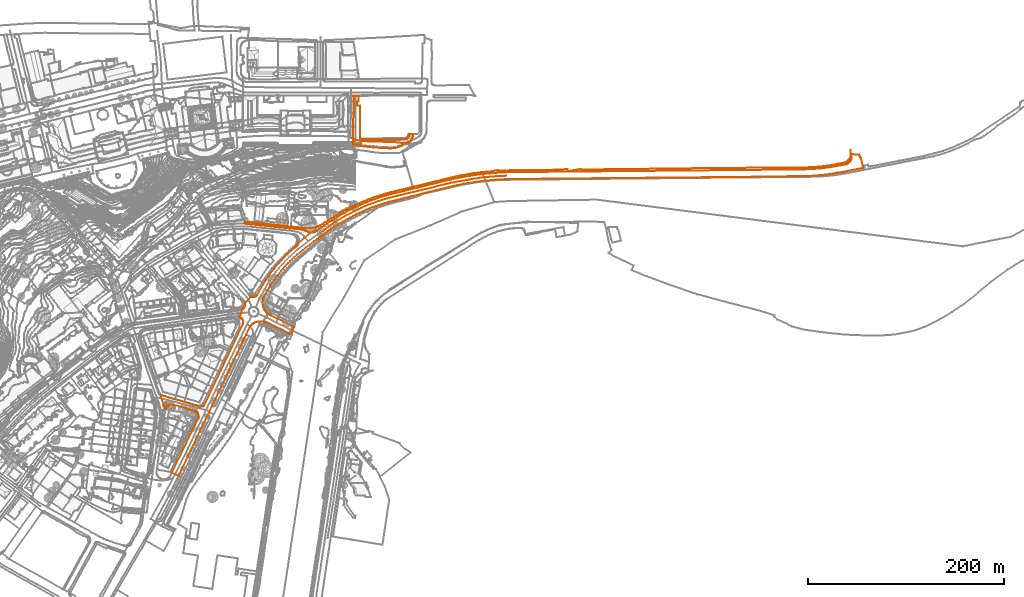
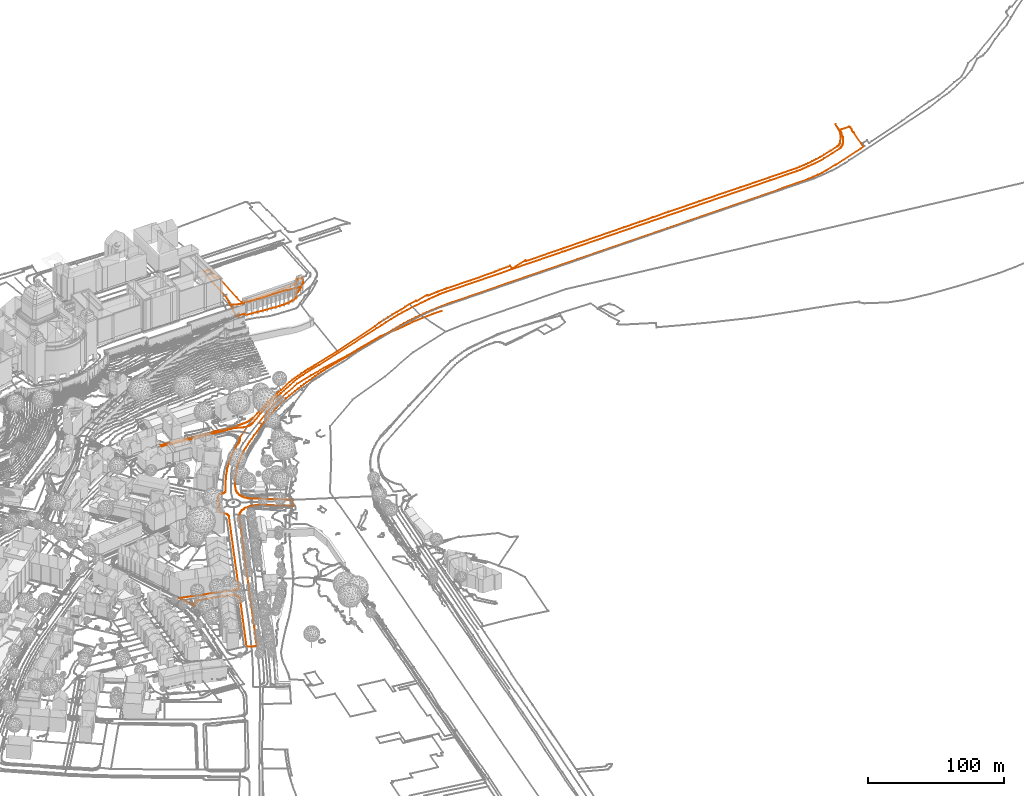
# Not in any storey, part 198 of 477: 5 civil elements.
"""IFC4 model written with IfcOpenShell, lengths in metres."""

from ifc_helpers import new_model, entity, si_unit, frame, origin_with_axes, place, context, subcontext, project, spatial, element, save


model = new_model("IFC4")

# Units and contexts
model_context = context("Model", 3, precision=1e-05, world=origin_with_axes())
body_context = subcontext(model_context, "Body", "Model", "MODEL_VIEW")
ifc_project = project(units=[si_unit("AREAUNIT", "SQUARE_METRE"), si_unit("LENGTHUNIT", "METRE")], contexts=[model_context])

# Sites
site_1_placement = place(None, origin_with_axes())
site_1 = spatial("IfcSite", under=ifc_project, at=site_1_placement, Name="Topoexport Site")
site_2_placement = place(site_1_placement, origin_with_axes())
site_2 = spatial("IfcSite", under=site_1, at=site_2_placement, Name="TPX_ROADS")

# Civil elements
civil_element_1_placement = place(site_2_placement, frame((652.7287320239, 270.2307349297, 502.334), z_axis=(0.0, 0.0, 1.0), x_axis=(1.0, 0.0, 0.0)))
element("IfcCivilElement", 1, at=civil_element_1_placement, inside=site_2, Name="Road 186", ObjectType="ROAD", context=body_context, shape_type="GeometricCurveSet", body=[
    entity("IfcGeometricCurveSet", [entity("IfcIndexedPolyCurve", entity("IfcCartesianPointList3D", [[0.0, 0.0, 0.0], [13.3630000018, 9.8389996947, 0.064], [25.5520000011, 17.0339994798, 0.069], [37.0050000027, 23.0549992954, -0.076], [49.4869999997, 28.6349991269, 0.49], [64.0240000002, 33.6279989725, 0.034], [77.8280000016, 37.2989988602, 0.002], [99.7080000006, 42.4379987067, -0.088], [133.0419999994, 50.6609984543, 0.775], [149.4880000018, 53.5979983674, -0.385], [162.557, 55.6539983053, -0.304], [172.9830000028, 56.8289982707, -0.418], [181.3529999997, 57.4159982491, -0.329], [188.9890000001, 57.7099982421, -0.403]]))]),
])
civil_element_2_placement = place(site_2_placement, frame((683.4917320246, 366.5697319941, 539.193), z_axis=(0.0, 0.0, 1.0), x_axis=(1.0, 0.0, 0.0)))
element("IfcCivilElement", 2, at=civil_element_2_placement, inside=site_2, Name="Road 194", ObjectType="ROAD", context=body_context, shape_type="GeometricCurveSet", body=[
    entity("IfcGeometricCurveSet", [entity("IfcIndexedPolyCurve", entity("IfcCartesianPointList3D", [[0.0, 0.0, 0.0], [4.0940000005, -1.8689999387, 0.0], [9.9670000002, -3.3299998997, 0.0], [26.7219999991, -3.8929998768, 0.0], [44.0549999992, -4.3579998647, 0.0], [56.6810000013, -5.775999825, -0.321]]))]),
])

# Site
site_3_placement = place(site_1_placement, origin_with_axes())
site_3 = spatial("IfcSite", under=site_1, at=site_3_placement, Name="TPX_ROADS_OUTLINES")

# Civil elements
civil_element_3_placement = place(site_3_placement, frame((685.9557320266, 359.8897160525, 531.9942875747), z_axis=(0.0, 0.0, 1.0), x_axis=(1.0, 0.0, 0.0)))
element("IfcCivilElement", 3, at=civil_element_3_placement, inside=site_3, Name="Roads Outline 50", ObjectType="ROAD", context=body_context, shape_type="GeometricCurveSet", body=[
    entity("IfcGeometricCurveSet", [entity("IfcIndexedPolyCurve", entity("IfcCartesianPointList3D", [[0.0, 0.0, 0.0], [0.0890000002, 15.2690000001, 7.6696997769], [0.2890000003, 49.442, 10.4254506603], [3.659, 49.45, 10.4313252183], [4.142, 49.45, 10.4313252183], [5.6860000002, 49.3999999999, 10.4283955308], [5.6899999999, 43.419, 9.9721661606], [3.7460000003, 43.4180000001, 9.9721215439], [3.7480000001, 39.308, 9.6187777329], [7.1060000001, 39.3100000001, 9.6190103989], [7.1070000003, 36.6429999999, 9.3774083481], [6.8319999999, 36.6429999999, 9.3774083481], [6.844, 12.4750000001, 7.4352180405], [6.9440000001, 12.4750000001, 7.4352180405], [6.9480000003, 5.2579999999, 7.2734139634], [7.4980000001, 5.2579999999, 7.2734139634], [11.4310000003, 5.2320000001, 7.2716905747], [11.4270000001, 4.7439999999, 7.239599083], [47.3960000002, 4.7709999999, 7.2412025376], [47.3960000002, 5.2609999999, 7.2736128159], [51.8680000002, 5.297, 7.2759990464], [52.4380000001, 5.338, 7.2787166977], [53.0010000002, 5.4399999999, 7.2854776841], [53.5490000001, 5.6029999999, 7.2962820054], [54.077, 5.8230000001, 7.3117002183], [54.5780000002, 6.0989999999, 7.3354863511], [55.0950000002, 6.4620000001, 7.3667702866], [55.5649999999, 6.8840000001, 7.394394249], [55.9790000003, 7.361, 7.3950056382], [56.3330000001, 7.8840000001, 7.3952736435], [56.6210000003, 8.446, 7.393798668], [56.8020000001, 8.925, 7.3990630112], [56.9360000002, 9.419, 7.4201388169], [57.02, 9.923, 7.4356003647], [57.054, 10.4339999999, 7.4356627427], [61.0440000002, 10.4609999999, 7.4356660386], [61.0300000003, 9.6580000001, 7.4303354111], [60.9440000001, 8.858, 7.3962045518], [60.787, 8.0700000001, 7.3947854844], [60.5610000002, 7.2989999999, 7.3949261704], [60.267, 6.551, 7.3744404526], [59.9070000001, 5.8329999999, 7.3125620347], [59.4850000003, 5.149, 7.2661889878], [59.003, 4.5060000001, 7.2254649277], [58.466, 3.9080000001, 7.1899513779], [57.878, 3.3599999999, 7.1886018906], [57.2430000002, 2.8670000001, 7.1958536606], [56.5670000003, 2.433, 6.5050056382], [55.8450000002, 2.0560000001, 5.7552165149], [55.0920000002, 1.746, 5.0546247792], [54.3140000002, 1.5060000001, 4.000933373], [53.517, 1.3359999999, 3.2545686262], [52.7080000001, 1.24, 2.8330920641], [51.8940000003, 1.2169999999, 2.7321133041], [51.0810000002, 1.2679999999, 2.9560227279], [51.0580000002, -0.331, 0.056040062], [49.8760000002, -0.9750000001, 0.0664170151], [48.6680000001, -1.5700000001, 0.0835668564], [47.4360000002, -2.112, 0.1039778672], [46.182, -2.602, 0.1272929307], [44.909, -3.0390000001, 0.1492976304], [43.6180000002, -3.4210000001, 0.1381416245], [42.2520000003, -3.679, 0.1123164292], [40.875, -3.8659999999, 0.0935981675], [39.4900000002, -3.9820000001, 0.0819868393], [38.1010000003, -4.027, 0.0774824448], [36.7120000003, -4.0009999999, 0.0800849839], [34.0440000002, -3.973, 0.0828877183], [31.3770000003, -3.889, 0.0912959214], [28.7120000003, -3.7509999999, 0.105109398], [16.9180000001, -2.8019999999, 0.1373637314], [6.9390000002, -1.6529999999, 0.0866925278], [6.9190000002, 0.0319999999, 0.2459170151], [2.5589999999, 0.0219999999, 0.2382802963], [0.4140000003, 0.004, 0.0634251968], [0.0, 0.0, 0.0]]))]),
])
civil_element_4_placement = place(site_3_placement, frame((575.3137320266, 279.0887160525, 502.7390479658), z_axis=(0.0, 0.0, 1.0), x_axis=(1.0, 0.0, 0.0)))
element("IfcCivilElement", 4, at=civil_element_4_placement, inside=site_3, Name="Roads Outline 58", ObjectType="ROAD", context=body_context, shape_type="GeometricCurveSet", body=[
    entity("IfcGeometricCurveSet", [entity("IfcIndexedPolyCurve", entity("IfcCartesianPointList3D", [[0.0, 0.0, 0.0], [0.023, 0.594, -0.0140480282], [0.1830000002, 2.064, 0.0380007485], [22.773, -0.297, -0.0268179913], [44.0260000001, -2.5190000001, -0.1798055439], [47.074, -2.8370000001, -0.2072955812], [63.0970000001, -4.5120000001, -0.1920969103], [64.338, -4.602, -0.1647163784], [65.5830000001, -4.6240000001, -0.1415279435], [66.827, -4.578, -0.0665604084], [68.0660000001, -4.463, -0.0619629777], [69.298, -4.281, -0.101557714], [70.517, -4.031, -0.1192800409], [71.7250000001, -3.7239999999, -0.0913754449], [72.915, -3.351, -0.0910114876], [74.0819999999, -2.9129999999, -0.1205362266], [75.2239999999, -2.412, -0.1277057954], [76.3360000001, -1.8489999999, -0.0987951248], [77.4160000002, -1.226, -0.0988630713], [82.196, 1.51, -0.1127746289], [85.1120000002, 3.476, -0.1272505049], [88.0610000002, 5.3929999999, -0.1297072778], [91.0410000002, 7.26, -0.1068120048], [94.0520000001, 9.077, -0.0926212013], [97.094, 10.844, -0.0606127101], [100.1640000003, 12.5589999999, -0.0386481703], [103.2630000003, 14.2220000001, -0.0256914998], [106.3670000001, 15.8629999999, -0.0246709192], [109.4990000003, 17.4509999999, -0.0241921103], [112.6570000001, 18.987, 0.0202368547], [115.8390000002, 20.47, 0.2884547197], [119.0470000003, 21.899, 0.8569992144], [122.2779999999, 23.274, 1.2869851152], [125.531, 24.595, 1.306228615], [128.8190000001, 25.838, 1.3645499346], [132.1270000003, 27.027, 1.390284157], [135.4539999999, 28.159, 1.487663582], [138.801, 29.2349999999, 1.556854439], [142.1640000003, 30.2549999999, 1.5883577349], [145.5449999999, 31.219, 1.6512673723], [148.9410000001, 32.125, 1.7039483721], [171.503, 37.6439999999, 3.1170710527], [208.5060000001, 46.7050000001, 7.1352472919], [212.9879999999, 47.71, 7.9794635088], [217.4850000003, 48.649, 8.5499245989], [221.3820000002, 49.4069999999, 8.951478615], [225.2880000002, 50.115, 9.4588840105], [229.3280000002, 50.784, 9.9802904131], [233.375, 51.4010000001, 10.463074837], [237.4310000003, 51.966, 11.1532098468], [241.4930000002, 52.48, 11.8874104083], [247.2800000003, 53.135, 12.318484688], [247.3500000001, 52.825, 12.1585084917], [257.4810000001, 54.5449999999, 13.2654735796], [257.523, 54.1769999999, 12.9917421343], [257.551, 53.9350000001, 12.8117339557], [259.4210000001, 54.0449999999, 12.893555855], [265.29, 54.297, 13.0810023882], [266.7940000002, 54.362, 13.1293516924], [272.3560000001, 54.4979999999, 13.2305133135], [273.716, 54.531, 13.2550598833], [274.423, 54.537, 13.2595228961], [294.1490000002, 54.692, 13.3563945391], [301.5900000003, 54.75, 13.389823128], [315.6440000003, 54.9639999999, 13.5131630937], [315.6370000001, 55.094, 13.5880892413], [319.6899999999, 55.2449999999, 13.6751188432], [328.818, 55.584, 13.8704786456], [329.1580000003, 53.544, 12.5295500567], [329.2060000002, 53.219, 12.3618330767], [329.5249999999, 53.2749999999, 12.3907320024], [329.4709999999, 53.5999999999, 12.56254908], [342.0240000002, 55.8419999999, 14.0160130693], [342.0930000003, 55.1909999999, 13.6439956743], [372.034, 55.51, 13.8278529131], [374.2630000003, 55.5330000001, 13.8411090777], [413.125, 55.9609999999, 14.0831394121], [425.9180000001, 56.1099999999, 14.1671883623], [439.6899999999, 56.26, 14.2518013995], [450.4930000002, 56.389, 14.3245686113], [451.2490000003, 56.3999999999, 14.3307735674], [463.7290000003, 56.5829999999, 14.4340344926], [464.165, 56.5889999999, 14.4376171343], [490.628, 56.7689999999, 14.5450963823], [494.4780000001, 56.8149999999, 14.5725633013], [502.4190000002, 56.909, 14.6286913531], [512.5300000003, 56.9790000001, 14.6704888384], [525.611, 57.0700000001, 14.7248255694], [537.4220000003, 57.1499999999, 14.772594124], [550.2340000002, 57.24, 14.8263337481], [562.3050000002, 57.3100000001, 14.8681312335], [568.7949999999, 57.3599999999, 14.89798658], [572.5930000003, 57.425, 14.9367985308], [576.389, 57.5689999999, 15.0227819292], [580.1810000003, 57.7930000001, 15.1932888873], [581.875, 57.919, 15.2904728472], [583.5670000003, 58.061, 15.3999976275], [587.2510000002, 58.4239999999, 15.6799799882], [590.9270000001, 58.862, 15.9835618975], [594.5930000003, 59.3740000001, 16.3158431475], [598.2480000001, 59.9609999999, 16.7408192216], [604.5049999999, 61.044, 17.5720565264], [610.7400000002, 62.25, 18.4461749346], [611.446, 62.4339999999, 18.5727310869], [612.1320000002, 62.6799999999, 18.6905505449], [612.7940000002, 62.986, 18.7405855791], [613.426, 63.3499999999, 18.8001043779], [614.023, 63.7689999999, 19.4143107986], [614.5810000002, 64.2390000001, 20.8626933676], [615.0950000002, 64.757, 21.9714867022], [615.5600000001, 65.318, 22.1374857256], [615.9739999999, 65.9180000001, 22.2188021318], [616.3340000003, 66.5530000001, 22.2248482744], [616.6350000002, 67.2169999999, 22.3294978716], [616.8760000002, 67.906, 23.1805670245], [617.0550000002, 68.6129999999, 24.8717613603], [617.1699999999, 69.3329999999, 25.816585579], [617.2200000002, 70.061, 25.9659049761], [617.2060000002, 70.79, 25.851041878], [616.8400000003, 75.2560000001, 28.3321324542], [617.693, 70.7760000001, 25.8457833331], [618.1140000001, 68.773, 25.081722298], [618.1440000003, 68.0109999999, 23.4369339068], [618.0989999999, 67.25, 22.3349220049], [617.9790000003, 66.497, 22.2243150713], [617.7860000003, 65.7589999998, 22.2172882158], [617.5210000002, 65.044, 22.0564095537], [617.1880000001, 64.358, 21.2294115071], [616.7880000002, 63.7079999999, 19.2263292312], [616.327, 63.101, 18.7593895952], [615.8300000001, 62.5649999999, 18.6628335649], [615.2850000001, 62.078, 18.3278724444], [614.6970000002, 61.6439999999, 18.029364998], [614.071, 61.267, 17.743934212], [613.412, 60.9509999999, 17.5003765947], [612.7260000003, 60.699, 17.3061471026], [612.0190000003, 60.5119999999, 17.1624095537], [605.352, 59.2069999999, 16.2074623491], [597.3300000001, 57.76, 15.1678359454], [588.389, 56.5859999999, 14.4358258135], [585.7510000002, 56.3, 14.274364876], [583.1090000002, 56.0530000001, 14.1350354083], [580.463, 55.845, 14.0177053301], [577.8859999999, 55.6780000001, 13.9235028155], [575.3060000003, 55.547, 13.8491780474], [572.7250000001, 55.453, 13.7950006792], [564.1810000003, 55.317, 13.7166164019], [550.0300000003, 55.142, 13.6157542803], [374.415, 53.4979999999, 12.5058116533], [372.1510000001, 53.477, 12.4949745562], [272.0070000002, 52.541, 11.9745431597], [269.443, 52.4790000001, 11.8859820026], [266.8790000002, 52.3969999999, 11.7688527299], [265.3740000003, 52.338, 11.6845767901], [261.5789999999, 52.1580000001, 11.4274637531], [257.7860000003, 51.932, 11.1046440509], [253.997, 51.6599999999, 10.7161176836], [250.2110000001, 51.3419999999, 10.4169090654], [246.3080000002, 50.9639999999, 10.1211351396], [242.409, 50.5379999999, 9.7879973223], [237.6880000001, 49.9739999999, 9.3491795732], [232.977, 49.335, 8.913336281], [229.551, 48.7989999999, 8.6293877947], [226.1310000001, 48.2249999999, 8.2954133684], [222.7170000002, 47.6129999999, 7.9199545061], [218.1060000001, 46.726, 7.1535819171], [213.5100000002, 45.7689999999, 6.6311838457], [208.9280000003, 44.7439999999, 6.109972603], [151.7320000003, 30.7689999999, 1.6132409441], [148.4670000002, 29.9439999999, 1.5797209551], [145.216, 29.0649999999, 1.5505769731], [141.98, 28.1310000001, 1.4846796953], [138.7609999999, 27.1429999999, 1.3977854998], [135.2850000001, 26.013, 1.3638342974], [131.8310000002, 24.817, 1.3195819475], [128.4010000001, 23.5549999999, 1.3691464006], [124.9950000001, 22.2279999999, 0.9666591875], [121.3740000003, 20.7109999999, 0.3753800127], [117.7800000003, 19.1310000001, 0.0251982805], [114.2150000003, 17.4879999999, -0.0992118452], [110.679, 15.7830000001, -0.1509549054], [107.1640000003, 14.0109999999, -0.1605287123], [103.6800000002, 12.1780000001, -0.168336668], [100.2290000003, 10.2849999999, -0.1843143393], [96.8119999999, 8.331, -0.2031708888], [94.2209999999, 6.7919999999, -0.2053692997], [91.6510000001, 5.219, -0.2345451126], [89.102, 3.6129999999, -0.2163769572], [86.6520000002, 2.024, -0.2502217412], [84.2209999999, 0.406, -0.2518458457], [81.5010000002, -1.4640000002, -0.2493056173], [78.8089999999, -3.375, -0.2500061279], [76.3859999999, -5.0919999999, -0.2502842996], [73.9720000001, -6.8200000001, -0.271843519], [73.344, -7.21, -0.2652878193], [72.6980000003, -7.5690000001, -0.2628349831], [72.0350000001, -7.8959999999, -0.2767461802], [71.2420000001, -8.237, -0.2722622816], [70.4310000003, -8.5330000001, -0.2845146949], [69.6040000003, -8.7830000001, -0.2947456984], [68.9939999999, -8.8900000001, -0.3006555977], [68.378, -8.9550000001, -0.3036094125], [67.7590000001, -8.9780000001, -0.3067985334], [66.9560000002, -8.9310000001, -0.3115055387], [66.1610000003, -8.804, -0.3147814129], [65.3829999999, -8.6000000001, -0.3105563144], [64.6290000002, -8.3200000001, -0.3057634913], [62.7230000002, -7.4040000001, -0.3226755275], [62.236, -7.196, -0.3164778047], [61.7430000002, -7.0009999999, -0.320302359], [61.361, -6.8600000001, -0.3299399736], [60.977, -6.727, -0.3408689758], [60.4870000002, -6.5730000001, -0.3266627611], [59.9950000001, -6.4240000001, -0.3020969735], [59.321, -6.21, -0.2931997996], [58.6350000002, -6.0390000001, -0.2884538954], [57.9470000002, -5.9129999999, -0.298608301], [57.253, -5.831, -0.294097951], [54.932, -5.6270000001, -0.3001115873], [52.6120000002, -5.4110000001, -0.2933143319], [49.7880000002, -5.132, -0.299116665], [46.966, -4.835, -0.2836204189], [19.7720000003, -2.0449999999, -0.1241622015], [0.0, 0.0, 0.0]]))]),
])
civil_element_5_placement = place(site_3_placement, frame((489.6837320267, 104.7347160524, 502.037969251), z_axis=(0.0, 0.0, 1.0), x_axis=(1.0, 0.0, 0.0)))
element("IfcCivilElement", 5, at=civil_element_5_placement, inside=site_3, Name="Roads Outline 129", ObjectType="ROAD", context=body_context, shape_type="GeometricCurveSet", body=[
    entity("IfcGeometricCurveSet", [entity("IfcIndexedPolyCurve", entity("IfcCartesianPointList3D", [[0.0, 0.0, 0.0], [0.4920000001, -0.233, 0.0318267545], [1.0060000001, -0.412, 0.0950170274], [39.8199999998, -11.6299999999, 0.2764621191], [40.324, -11.797, 0.2865341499], [40.8450000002, -11.895, 0.2985066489], [41.375, -11.923, 0.313501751], [41.9029999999, -11.8810000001, 0.3333480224], [42.4219999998, -11.7690000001, 0.3526205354], [42.8859999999, -11.6029999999, 0.372504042], [43.327, -11.3810000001, 0.3893167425], [43.736, -11.1059999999, 0.4033817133], [44.1090000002, -10.7830000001, 0.400764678], [44.4380000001, -10.416, 0.3657466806], [44.7200000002, -10.0109999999, 0.329784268], [44.9500000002, -9.575, 0.3438664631], [83.7009999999, 71.5360000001, 0.3001369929], [83.929, 72.0379999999, 0.3125179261], [84.1060000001, 72.5590000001, 0.3279154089], [84.2310000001, 73.0959999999, 0.3375027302], [84.3029999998, 73.642, 0.3435276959], [84.3190000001, 74.247, 0.3418342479], [84.27, 74.851, 0.3344868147], [84.156, 75.446, 0.3401234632], [83.9780000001, 76.0249999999, 0.3378386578], [83.7179999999, 76.608, 0.3384688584], [83.3900000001, 77.156, 0.3458584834], [82.9989999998, 77.6599999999, 0.3509445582], [82.5520000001, 78.115, 0.3585128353], [82.0529999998, 78.514, 0.3793027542], [81.4210000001, 78.912, 0.3947122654], [80.7510000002, 79.2409999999, 0.3958385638], [81.3960000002, 81.422, 0.3990033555], [82.986, 86.8019999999, 0.3606123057], [82.9950000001, 86.831, 0.3602272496], [83.6030000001, 87.209, 0.369613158], [84.165, 87.6499999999, 0.3805091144], [84.676, 88.1510000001, 0.3936143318], [85.1290000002, 88.7050000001, 0.4026164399], [85.5189999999, 89.3049999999, 0.4034149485], [85.8199999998, 89.8959999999, 0.3853303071], [86.0589999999, 90.5149999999, 0.3837114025], [86.2349999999, 91.1540000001, 0.385634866], [86.3450000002, 91.808, 0.3934733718], [86.3870000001, 92.47, 0.3949902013], [86.3629999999, 93.1329999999, 0.3962791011], [86.2710000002, 93.79, 0.3904640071], [86.3590000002, 93.8899999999, 0.3864006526], [92.017, 100.321, 0.5224619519], [92.5070000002, 100.0649999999, 0.5266412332], [93.0240000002, 99.8689999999, 0.523044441], [93.5610000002, 99.737, 0.525689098], [94.1090000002, 99.6699999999, 0.5273917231], [94.662, 99.6699999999, 0.52829527], [95.2179999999, 99.7379999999, 0.5303505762], [95.7609999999, 99.8740000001, 0.5272590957], [96.284, 100.075, 0.5236011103], [96.7790000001, 100.338, 0.5236526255], [97.2370000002, 100.659, 0.5298865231], [97.6529999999, 101.034, 0.533267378], [98.0210000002, 101.4569999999, 0.5120987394], [98.3339999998, 101.9210000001, 0.4776904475], [104.9720000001, 113.2220000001, 0.4329129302], [106.5989999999, 115.855, 0.4393658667], [108.2820000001, 118.453, 0.4354937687], [110.02, 121.014, 0.3888726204], [111.8139999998, 123.537, 0.3735200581], [113.6609999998, 126.0209999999, 0.3625646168], [115.5210000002, 128.4140000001, 0.331611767], [117.4309999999, 130.767, 0.3335581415], [119.3900000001, 133.0789999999, 0.3097474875], [121.398, 135.3489999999, 0.3087374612], [123.4530000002, 137.577, 0.2541953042], [125.5550000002, 139.76, 0.2779658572], [127.659, 141.8770000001, 0.2416971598], [129.8119999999, 143.9450000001, 0.2766928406], [132.1209999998, 146.0530000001, 0.2389161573], [134.4819999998, 148.1030000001, 0.2319543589], [136.8930000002, 150.094, 0.233252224], [137.483, 150.5600000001, 0.2067087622], [138.0750000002, 151.0220000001, 0.2246084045], [138.375, 151.3030000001, 0.2387899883], [138.6660000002, 151.595, 0.2399036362], [139.145, 152.0419999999, 0.2449269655], [139.5839999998, 152.5279999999, 0.2313018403], [139.98, 153.0490000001, 0.2313866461], [140.3849999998, 153.703, 0.2462976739], [140.7220000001, 154.3940000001, 0.2484129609], [140.8969999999, 154.926, 0.2506428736], [141.0430000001, 155.4669999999, 0.2681042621], [153.389, 165.3759999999, 0.3942801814], [154.0079999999, 165.399, 0.3974693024], [154.6239999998, 165.4639999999, 0.4004231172], [155.2340000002, 165.571, 0.4063330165], [156.0610000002, 165.821, 0.4165640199], [156.872, 166.1170000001, 0.4288164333], [157.665, 166.4580000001, 0.4243325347], [158.3280000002, 166.7849999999, 0.4382437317], [158.9739999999, 167.1440000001, 0.4357908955], [159.602, 167.534, 0.4292351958], [162.0159999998, 169.2620000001, 0.4507944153], [164.4389999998, 170.9790000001, 0.4510725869], [167.1310000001, 172.8899999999, 0.4517730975], [169.8509999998, 174.76, 0.4492328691], [172.2820000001, 176.378, 0.4508569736], [174.7319999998, 177.9669999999, 0.4847017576], [177.281, 179.5730000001, 0.4665336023], [179.8509999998, 181.1459999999, 0.4957094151], [182.4419999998, 182.6850000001, 0.497907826], [185.8590000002, 184.639, 0.5167643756], [189.3100000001, 186.5320000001, 0.5327420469], [192.7940000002, 188.365, 0.5405500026], [196.3089999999, 190.1370000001, 0.5501238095], [199.8450000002, 191.8419999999, 0.6018668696], [203.4100000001, 193.4850000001, 0.7262769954], [207.0040000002, 195.0649999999, 1.0764587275], [210.625, 196.5819999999, 1.6677379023], [214.031, 197.909, 2.0702251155], [217.4610000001, 199.1710000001, 2.0206606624], [220.915, 200.3670000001, 2.0649130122], [224.3909999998, 201.497, 2.0988642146], [227.6099999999, 202.4850000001, 2.1857584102], [230.8459999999, 203.419, 2.251655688], [234.0970000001, 204.298, 2.2807996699], [237.3620000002, 205.1229999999, 2.3143196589], [294.5580000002, 219.098, 6.8110513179], [299.1400000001, 220.1229999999, 7.3322625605], [303.736, 221.0800000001, 7.8546606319], [308.3470000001, 221.9669999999, 8.6210332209], [311.7609999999, 222.5789999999, 8.9964920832], [315.1809999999, 223.1529999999, 9.3304665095], [318.6069999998, 223.689, 9.6144149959], [323.318, 224.328, 10.0502582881], [328.0389999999, 224.892, 10.4890760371], [331.9380000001, 225.318, 10.8222138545], [335.841, 225.696, 11.1179877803], [339.6269999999, 226.014, 11.4171963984], [343.4160000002, 226.2860000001, 11.8057227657], [347.2089999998, 226.5120000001, 12.1285424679], [351.0040000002, 226.692, 12.3856555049], [352.5090000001, 226.7509999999, 12.4699314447], [355.0729999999, 226.8330000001, 12.5870607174], [357.6370000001, 226.895, 12.6756218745], [457.781, 227.831, 13.196053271], [460.0449999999, 227.852, 13.2068903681], [635.6600000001, 229.496, 14.3168329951], [649.8110000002, 229.6710000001, 14.4176951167], [658.355, 229.807, 14.4960793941], [660.9360000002, 229.9010000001, 14.5502567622], [663.5159999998, 230.0320000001, 14.6245815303], [666.0929999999, 230.199, 14.7187840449], [668.7390000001, 230.4070000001, 14.8361141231], [671.3810000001, 230.6540000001, 14.9754435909], [674.0189999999, 230.9399999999, 15.1369045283], [682.96, 232.1140000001, 15.8689146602], [690.9819999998, 233.561, 16.908541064], [697.6490000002, 234.8659999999, 17.8634882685], [698.3560000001, 235.0530000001, 18.0072258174], [699.0419999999, 235.3049999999, 18.2014553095], [699.7009999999, 235.621, 18.4450129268], [700.327, 235.9979999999, 18.7304437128], [700.915, 236.432, 19.0289511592], [701.46, 236.919, 19.3639122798], [701.9569999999, 237.4550000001, 19.4604683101], [702.4180000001, 238.0619999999, 19.9274079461], [702.818, 238.7120000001, 21.9304902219], [703.1510000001, 239.398, 22.7574882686], [703.4160000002, 240.1129999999, 22.9183669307], [703.6090000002, 240.851, 22.9253937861], [703.7289999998, 241.6040000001, 23.0360007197], [703.7740000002, 242.365, 24.1380126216], [703.7439999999, 243.1270000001, 25.7828010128], [703.3229999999, 245.1300000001, 26.5468620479], [711.6090000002, 244.8970000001, 26.4884401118], [711.8220000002, 244.156, 26.762923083], [712.0180000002, 243.527, 26.3077033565], [712.2749999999, 242.9199999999, 25.4930947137], [712.5890000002, 242.3419999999, 24.0818560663], [712.9580000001, 241.7960000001, 23.0675593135], [713.3790000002, 241.2890000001, 22.9842249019], [715.6120000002, 231.267, 15.3321584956], [712.8760000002, 230.73, 15.0183141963], [689.1940000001, 226.044, 11.4600485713], [689.1510000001, 226.26, 11.7685842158], [680.7719999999, 224.8500000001, 10.4563981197], [676.8110000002, 224.3459999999, 10.0642631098], [672.841, 223.9140000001, 9.7336097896], [668.852, 223.551, 9.5413088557], [664.858, 223.2590000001, 9.3866205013], [660.8590000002, 223.0390000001, 9.2700744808], [638.8670000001, 222.726, 9.0866758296], [638.8280000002, 222.5349999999, 8.9694983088], [543.3280000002, 221.5800000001, 8.2911993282], [489.202, 221.108, 7.8791067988], [466.5619999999, 220.8999999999, 7.7113725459], [359.4100000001, 219.852, 7.1979227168], [354.98, 219.7679999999, 7.1548229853], [350.5529999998, 219.6170000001, 7.0773460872], [346.128, 219.3999999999, 6.9660051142], [341.7059999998, 219.1170000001, 6.8208000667], [337.29, 218.767, 6.6491397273], [334.2450000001, 218.487, 6.5185989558], [331.2030000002, 218.176, 6.373605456], [327.3790000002, 217.7660000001, 6.1865809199], [323.5619999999, 217.3060000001, 5.9832813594], [319.75, 216.7949999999, 5.7454539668], [316.264, 216.257, 5.4619400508], [312.784, 215.676, 5.1851398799], [309.3119999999, 215.0519999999, 4.9268029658], [305.7409999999, 214.3640000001, 4.5904222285], [302.179, 213.6310000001, 4.2715743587], [298.6260000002, 212.8530000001, 4.0173401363], [295.0839999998, 212.0290000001, 3.8253718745], [237.7579999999, 197.9639999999, 2.0761149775], [234.6889999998, 197.182, 1.8576583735], [231.6340000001, 196.348, 1.5897426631], [228.594, 195.4610000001, 1.2473884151], [225.5690000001, 194.523, 0.9055661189], [222.5449999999, 193.5260000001, 0.7276896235], [219.5389999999, 192.477, 0.6606183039], [216.5520000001, 191.375, 0.5836959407], [213.585, 190.2209999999, 0.5472164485], [210.102, 188.791, 0.5033242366], [206.6490000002, 187.2890000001, 0.5211474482], [203.2280000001, 185.716, 0.4538618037], [199.8399999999, 184.0730000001, 0.486218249], [196.3760000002, 182.3319999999, 0.5347172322], [192.9449999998, 180.5260000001, 0.5152099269], [189.5490000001, 178.6570000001, 0.5213662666], [186.1869999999, 176.726, 0.4668910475], [183.4449999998, 175.112, 0.4904026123], [180.73, 173.4550000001, 0.4713032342], [177.29, 171.25, 0.481751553], [173.8820000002, 168.9939999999, 0.4513197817], [170.5320000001, 166.703, 0.4030222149], [167.2170000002, 164.3629999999, 0.3722437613], [166.0759999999, 163.558, 0.3353686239], [164.9410000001, 162.7439999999, 0.3350132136], [164.0150000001, 162.0689999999, 0.3613916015], [163.094, 161.388, 0.3310757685], [162.6000000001, 161.027, 0.3464517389], [159.557, 158.7890000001, 0.359516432], [156.5279999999, 156.5320000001, 0.3168201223], [152.2030000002, 153.2550000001, 0.336954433], [147.9100000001, 149.9380000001, 0.2182045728], [145.2319999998, 147.818, 0.2088180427], [142.5789999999, 145.6669999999, 0.2329256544], [139.1710000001, 142.8200000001, 0.3634406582], [135.8089999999, 139.9199999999, 0.3338330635], [133.8909999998, 138.148, 0.3114798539], [132.0090000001, 136.3370000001, 0.3573746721], [130.165, 134.4879999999, 0.3546616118], [128.3599999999, 132.601, 0.3603923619], [126.5019999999, 130.554, 0.3895127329], [124.682, 128.4739999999, 0.3754822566], [122.8999999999, 126.361, 0.4064679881], [121.1579999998, 124.2150000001, 0.4112157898], [119.284, 121.8149999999, 0.5018478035], [117.46, 119.378, 0.4641318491], [115.6850000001, 116.9040000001, 0.5768830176], [113.96, 114.395, 0.5177460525], [112.287, 111.851, 0.5648822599], [111.719, 110.9450000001, 0.4922565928], [111.1579999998, 110.034, 0.5679844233], [109.7089999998, 107.6030000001, 0.5460242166], [108.3130000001, 105.1410000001, 0.5053488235], [106.9700000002, 102.649, 0.5635916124], [105.682, 100.129, 0.5779423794], [105.2949999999, 99.253, 0.5582761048], [104.9649999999, 98.3540000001, 0.5693903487], [104.6940000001, 97.4350000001, 0.6139149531], [104.483, 96.5009999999, 0.6518028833], [104.3330000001, 95.5549999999, 0.6617279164], [104.2439999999, 94.601, 0.6664302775], [104.2170000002, 93.6470000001, 0.7002412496], [104.2519999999, 92.6939999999, 0.7174642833], [104.3480000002, 91.7450000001, 0.7463504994], [104.5049999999, 90.804, 0.7981586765], [104.7230000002, 89.875, 0.7810090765], [105.0, 88.9620000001, 0.7712170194], [105.398, 87.9839999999, 0.8306107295], [105.8679999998, 87.0379999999, 0.8476780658], [106.4070000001, 86.1300000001, 0.8588735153], [107.0120000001, 85.2649999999, 0.8711099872], [107.6809999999, 84.4469999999, 0.8858651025], [108.4079999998, 83.6810000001, 0.9250246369], [109.1899999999, 82.9709999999, 0.9568424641], [110.023, 82.3219999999, 0.9927378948], [110.9020000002, 81.737, 0.9913033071], [111.8220000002, 81.2180000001, 1.0143836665], [112.7779999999, 80.77, 1.0540065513], [134.7310000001, 70.01, -0.9569198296], [136.2009999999, 69.2890000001, -1.0759925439], [135.73, 68.3230000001, -1.0826023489], [132.648, 62.004, -1.0242031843], [132.2050000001, 62.2209999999, -1.017158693], [109.6290000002, 73.3219999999, 1.1629903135], [108.6340000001, 73.764, 1.1262017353], [107.6120000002, 74.138, 1.0789037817], [106.5660000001, 74.4399999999, 1.0637142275], [105.6170000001, 74.6340000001, 1.0193603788], [104.6609999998, 74.7830000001, 1.0490911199], [103.6979999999, 74.8870000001, 1.0508860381], [102.7379999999, 74.977, 1.0368086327], [101.7740000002, 75.0020000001, 0.9779914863], [100.8110000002, 74.9610000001, 0.9364992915], [99.8530000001, 74.8540000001, 0.935758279], [98.9350000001, 74.713, 0.9177296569], [98.031, 74.496, 0.8734545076], [97.1490000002, 74.2050000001, 0.8284077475], [96.2940000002, 73.841, 0.8124893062], [95.4350000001, 73.3530000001, 0.7720185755], [94.6129999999, 72.8060000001, 0.7388556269], [93.8309999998, 72.203, 0.7081495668], [93.094, 71.5460000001, 0.6570803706], [92.446, 70.885, 0.6074910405], [91.8429999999, 70.182, 0.5816437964], [91.287, 69.4410000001, 0.5561385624], [90.7820000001, 68.665, 0.5454139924], [90.3280000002, 67.858, 0.5229730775], [88.7889999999, 64.6880000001, 0.4848656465], [87.2549999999, 61.5149999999, 0.490140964], [85.1340000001, 57.112, 0.568507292], [83.0219999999, 52.7050000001, 0.510795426], [68.2940000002, 21.9010000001, 0.3691617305], [52.4530000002, -11.304, 0.4526008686], [48.1600000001, -20.23, 0.4857385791], [18.395, -82.3910000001, 0.3850113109], [11.6669999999, -79.1440000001, 0.2423395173], [11.6209999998, -79.122, 0.2398931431], [38.284, -23.4720000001, 0.3566035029], [38.4989999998, -22.8740000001, 0.3365345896], [38.6439999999, -22.2560000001, 0.3487908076], [38.7170000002, -21.625, 0.3256136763], [38.7170000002, -20.99, 0.2915808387], [38.6439999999, -20.3589999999, 0.2878974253], [38.5, -19.74, 0.2847381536], [38.2859999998, -19.142, 0.2841696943], [38.0040000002, -18.5730000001, 0.2734845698], [37.6850000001, -18.0759999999, 0.2454893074], [37.3160000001, -17.6159999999, 0.2604003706], [36.8990000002, -17.1980000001, 0.258629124], [36.4399999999, -16.827, 0.2386435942], [35.9440000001, -16.507, 0.3324920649], [35.4169999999, -16.2409999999, 0.3787613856], [34.8640000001, -16.034, 0.3948989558], [34.2930000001, -15.8859999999, 0.4347659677], [33.5040000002, -15.6739999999, 0.4910150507], [12.5260000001, -9.7139999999, -0.0067858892], [11.9180000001, -9.574, -0.0287898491], [11.2990000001, -9.5, -0.0285620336], [10.6749999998, -9.4920000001, 0.02978985], [10.054, -9.55, 0.0623875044], [9.443, -9.6739999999, 0.0739623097], [8.8480000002, -9.8629999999, 0.0127276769], [8.2770000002, -10.1140000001, -0.0357370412], [7.736, -10.4239999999, -0.0392759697], [7.2310000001, -10.791, -0.0430880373], [6.7680000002, -11.209, -0.053010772], [6.3530000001, -11.6739999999, -0.0802345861], [5.9890000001, -12.1810000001, -0.1097893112], [5.6809999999, -12.7239999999, -0.0793645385], [5.4330000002, -13.2960000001, -0.0391066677], [5.247, -13.892, -0.0242537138], [5.1260000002, -14.504, -0.0116619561], [0.5469999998, -1.548, 0.0012008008], [0.1189999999, -0.3370000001, -0.0084400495], [0.0, 0.0, 0.0]]))]),
])

save(model, "model.ifc")
